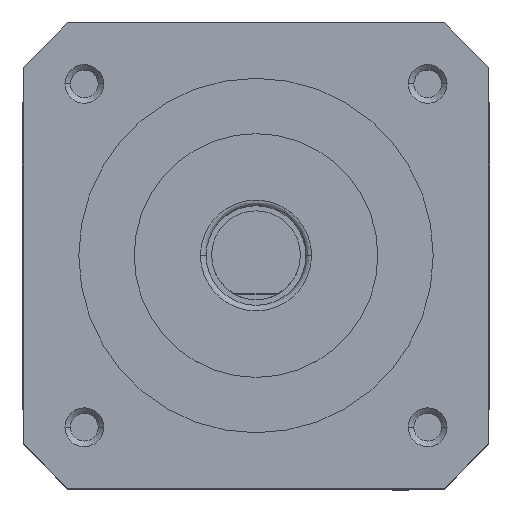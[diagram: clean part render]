
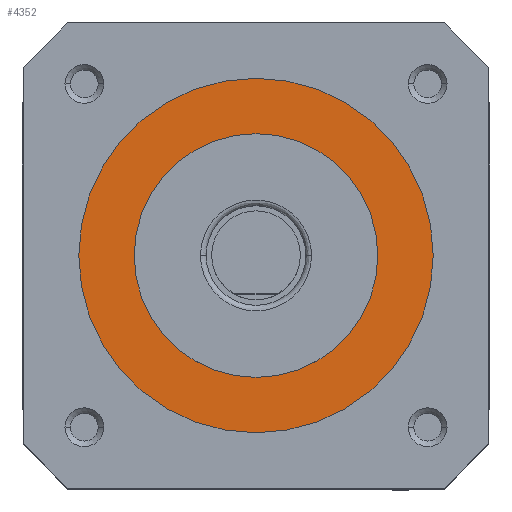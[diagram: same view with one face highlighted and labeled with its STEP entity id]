
A CAD part, top view. The second image highlights one B-rep face of the part: STEP entity #4352.
In plain terms, the highlighted planar face has unit normal (0, 0, 1).
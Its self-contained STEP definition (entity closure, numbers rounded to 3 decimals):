
#80 = VERTEX_POINT ( 'NONE', #704 ) ;
#103 = DIRECTION ( 'NONE',  ( 1., 0., 0. ) ) ;
#640 = DIRECTION ( 'NONE',  ( 1., 0., 0. ) ) ;
#650 = CIRCLE ( 'NONE', #1418, 16. ) ;
#680 = DIRECTION ( 'NONE',  ( -1., 0., 0. ) ) ;
#704 = CARTESIAN_POINT ( 'NONE',  ( -16., 0., 7.7 ) ) ;
#716 = EDGE_LOOP ( 'NONE', ( #4566, #3976 ) ) ;
#1053 = DIRECTION ( 'NONE',  ( 0., 0., -1. ) ) ;
#1213 = CIRCLE ( 'NONE', #6522, 11. ) ;
#1367 = CIRCLE ( 'NONE', #5825, 16. ) ;
#1392 = VERTEX_POINT ( 'NONE', #2990 ) ;
#1418 = AXIS2_PLACEMENT_3D ( 'NONE', #2637, #5201, #6175 ) ;
#1466 = EDGE_CURVE ( 'NONE', #3490, #3381, #1213, .T. ) ;
#1696 = CARTESIAN_POINT ( 'NONE',  ( 11., 0., 7.7 ) ) ;
#1903 = DIRECTION ( 'NONE',  ( -1., 0., 0. ) ) ;
#2585 = CARTESIAN_POINT ( 'NONE',  ( 0., 0., 7.7 ) ) ;
#2637 = CARTESIAN_POINT ( 'NONE',  ( 0., 0., 7.7 ) ) ;
#2661 = CARTESIAN_POINT ( 'NONE',  ( 0., 0., 7.7 ) ) ;
#2990 = CARTESIAN_POINT ( 'NONE',  ( 16., 0., 7.7 ) ) ;
#3233 = ORIENTED_EDGE ( 'NONE', *, *, #4386, .T. ) ;
#3381 = VERTEX_POINT ( 'NONE', #1696 ) ;
#3389 = DIRECTION ( 'NONE',  ( 0., 0., -1. ) ) ;
#3490 = VERTEX_POINT ( 'NONE', #5735 ) ;
#3664 = DIRECTION ( 'NONE',  ( 0., 0., 1. ) ) ;
#3767 = AXIS2_PLACEMENT_3D ( 'NONE', #2661, #5684, #103 ) ;
#3858 = EDGE_CURVE ( 'NONE', #1392, #80, #1367, .T. ) ;
#3976 = ORIENTED_EDGE ( 'NONE', *, *, #6258, .T. ) ;
#3991 = FACE_OUTER_BOUND ( 'NONE', #5644, .T. ) ;
#4352 = ADVANCED_FACE ( 'NONE', ( #3991, #5022 ), #5671, .T. ) ;
#4386 = EDGE_CURVE ( 'NONE', #80, #1392, #650, .T. ) ;
#4487 = CARTESIAN_POINT ( 'NONE',  ( 0., 0., 7.7 ) ) ;
#4566 = ORIENTED_EDGE ( 'NONE', *, *, #1466, .T. ) ;
#4637 = ORIENTED_EDGE ( 'NONE', *, *, #3858, .T. ) ;
#5022 = FACE_BOUND ( 'NONE', #716, .T. ) ;
#5201 = DIRECTION ( 'NONE',  ( 0., 0., 1. ) ) ;
#5530 = AXIS2_PLACEMENT_3D ( 'NONE', #6006, #3389, #1903 ) ;
#5644 = EDGE_LOOP ( 'NONE', ( #4637, #3233 ) ) ;
#5671 = PLANE ( 'NONE',  #3767 ) ;
#5684 = DIRECTION ( 'NONE',  ( 0., 0., 1. ) ) ;
#5735 = CARTESIAN_POINT ( 'NONE',  ( -11., 0., 7.7 ) ) ;
#5825 = AXIS2_PLACEMENT_3D ( 'NONE', #4487, #3664, #640 ) ;
#6006 = CARTESIAN_POINT ( 'NONE',  ( 0., 0., 7.7 ) ) ;
#6086 = CIRCLE ( 'NONE', #5530, 11. ) ;
#6175 = DIRECTION ( 'NONE',  ( 1., 0., 0. ) ) ;
#6258 = EDGE_CURVE ( 'NONE', #3381, #3490, #6086, .T. ) ;
#6522 = AXIS2_PLACEMENT_3D ( 'NONE', #2585, #1053, #680 ) ;
